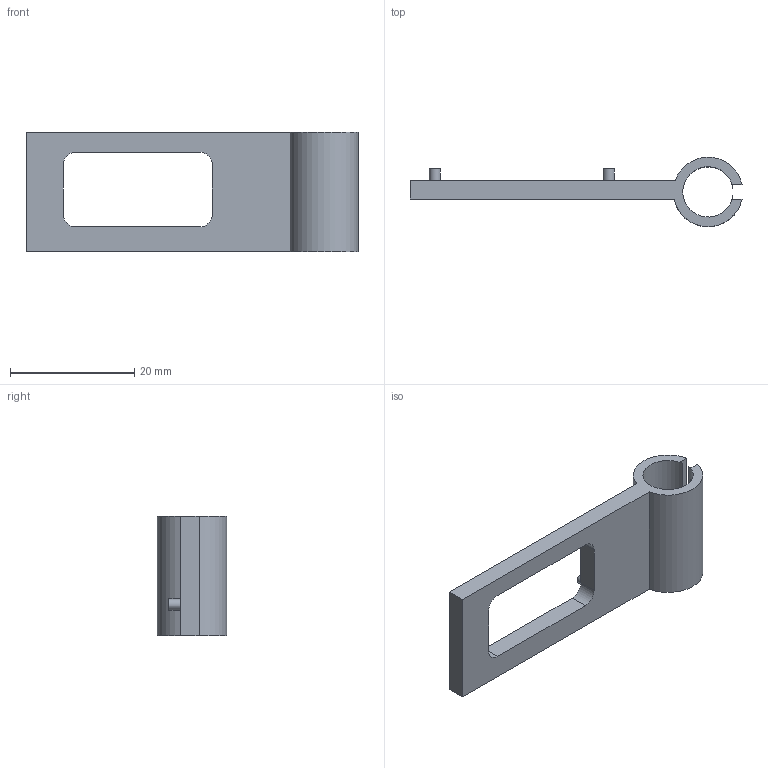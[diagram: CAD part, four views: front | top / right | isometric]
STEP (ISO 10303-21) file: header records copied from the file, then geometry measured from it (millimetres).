
FILE_DESCRIPTION(('Open CASCADE Model'),'2;1');
FILE_NAME('Open CASCADE Shape Model','2026-11-01T16:34:15',('Author'),( 'Open CASCADE'),'Open CASCADE STEP processor 8.0','build123d', 'Unknown');
FILE_SCHEMA(('AUTOMOTIVE_DESIGN { 1 0 10303 214 1 1 1 1 }'));
Length unit declared in the file: millimetre
Products named in the file (1): SOLID
Bounding box: 53.47 x 11.2 x 19.2 mm (x, y, z)
Volume: 2434.1 mm3; surface area: 2806.6 mm2
Topology: 1 solids, 1 shells, 24 faces, 60 edges, 40 vertices
Faces by surface type: plane 15, cylinder 9
Full cylindrical faces by diameter (mm): 1.8 x2
Entity records: 1478 total; most frequent: CARTESIAN_POINT 301, DIRECTION 202, ORIENTED_EDGE 120, PCURVE 120, DEFINITIONAL_REPRESENTATION 120, LINE 100, VECTOR 100, EDGE_CURVE 60
